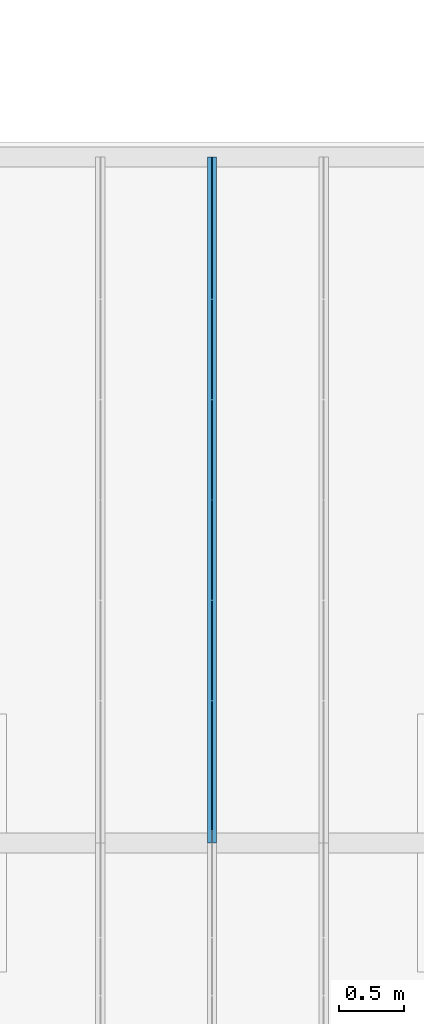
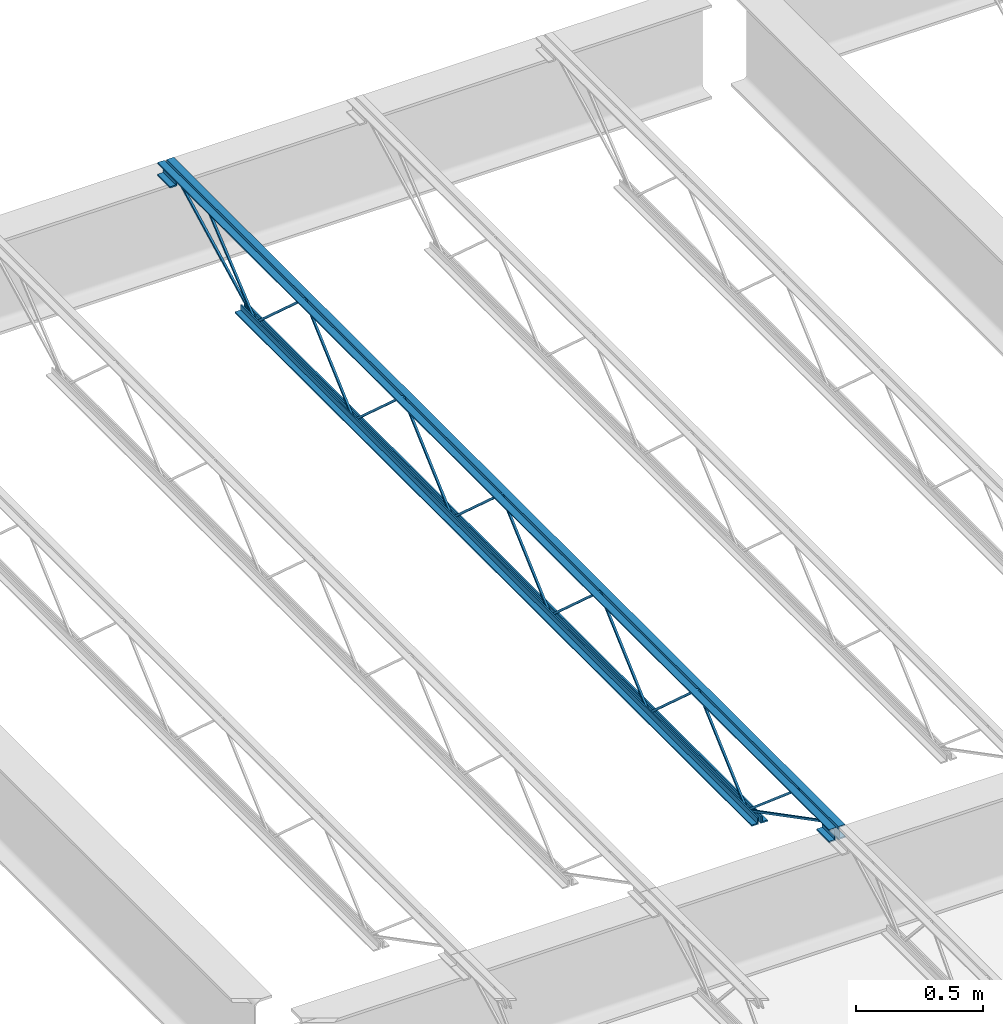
# One storey, part 62 of 75: 1 beam.
"""IFC2X3 building model written with IfcOpenShell, lengths in metres."""

import ifcopenshell
import ifcopenshell.guid

model = None  # the IFC model being written
_history = None  # IfcOwnerHistory: only IFC2X3 demands one
_inside = {}  # id of a spatial element -> (the spatial element, [elements in it])
_under = {}  # id of a project, library or spatial element -> (it, [spatial elements below it])
_declared = {}  # id of a project -> (the project, [libraries it declares])
_typed = {}  # id of a type object -> (the type object, [elements of that type])
_made_of = {}  # id of a material, layer set ... -> (it, [elements and type objects made of it])


def new_model(schema):
    """Start an empty IFC model of exactly this schema.

    Asked for "IFC4X3", IfcOpenShell would pick the latest addendum, in which some entities
    have other attributes; the version numbers below select the first issue.
    IFC2X3 requires an IfcOwnerHistory on every rooted entity: one is made here for all.
    """
    global model, _history
    if schema == "IFC4X3":
        model = ifcopenshell.file(schema_version=(4, 3, 0, 0))
    else:
        model = ifcopenshell.file(schema=schema)
    _inside.clear()
    _under.clear()
    _declared.clear()
    _typed.clear()
    _made_of.clear()
    _history = None
    if model.schema == "IFC2X3":
        org = make("IfcOrganization", Name="unknown")
        user = make(
            "IfcPersonAndOrganization",
            ThePerson=make("IfcPerson", FamilyName="unknown"),
            TheOrganization=org,
        )
        app = make(
            "IfcApplication",
            ApplicationDeveloper=org,
            Version="unknown",
            ApplicationFullName="unknown",
            ApplicationIdentifier="unknown",
        )
        _history = make(
            "IfcOwnerHistory",
            OwningUser=user,
            OwningApplication=app,
            ChangeAction="ADDED",
            CreationDate=0,
        )
    return model


def make(cls, **values):
    """One entity of the class cls with the attributes given. An attribute that is None is left unset."""
    return model.create_entity(
        cls, **{name: value for name, value in values.items() if value is not None}
    )


def entity(cls, *values):
    """Any entity or typed value of the class cls, its attributes in the order of the schema. None: left unset."""
    e = model.create_entity(cls)
    for i, value in enumerate(values):
        if value is not None:
            e[i] = value
    return e


def rooted(cls, **values):
    """An entity with a GlobalId (a new one), such as an element, a storey or a relation."""
    return make(cls, GlobalId=ifcopenshell.guid.new(), OwnerHistory=_history, **values)


def si_unit(unit_type, name, prefix=None):
    """IfcSIUnit, for example si_unit("LENGTHUNIT", "METRE", prefix="MILLI")."""
    return make("IfcSIUnit", UnitType=unit_type, Prefix=prefix, Name=name)


def converted_unit(unit_type, name, factor, base, dimensions=None, offset=None):
    """IfcConversionBasedUnit, such as the inch: factor (a typed value) times the base unit."""
    return make(
        "IfcConversionBasedUnit"
        if offset is None
        else "IfcConversionBasedUnitWithOffset",
        ConversionOffset=offset,
        Dimensions=None
        if dimensions is None
        else entity("IfcDimensionalExponents", *dimensions),
        UnitType=unit_type,
        Name=name,
        ConversionFactor=make(
            "IfcMeasureWithUnit", ValueComponent=factor, UnitComponent=base
        ),
    )


def assignment(units):
    """IfcUnitAssignment: the units of a project."""
    return None if units is None else make("IfcUnitAssignment", Units=units)


def point(xyz):
    """IfcCartesianPoint."""
    return None if xyz is None else make("IfcCartesianPoint", Coordinates=xyz)


def direction(xyz):
    """IfcDirection."""
    return None if xyz is None else make("IfcDirection", DirectionRatios=xyz)


def frame(location, z_axis=None, x_axis=None):
    """IfcAxis2Placement3D, a coordinate frame: its origin and axes. An axis left out is left unset."""
    return make(
        "IfcAxis2Placement3D",
        Location=point(location),
        Axis=direction(z_axis),
        RefDirection=direction(x_axis),
    )


def origin():
    """The frame at (0, 0, 0) with its axes left unset."""
    return frame((0.0, 0.0, 0.0))


def place(relative_to, where):
    """IfcLocalPlacement: puts the frame where relative to a parent placement (None: the world)."""
    return make(
        "IfcLocalPlacement", PlacementRelTo=relative_to, RelativePlacement=where
    )


def context(
    kind, dimensions, precision=None, world=None, true_north=None, identifier=None
):
    """IfcGeometricRepresentationContext, for example the 3D "Model" context."""
    return make(
        "IfcGeometricRepresentationContext",
        ContextIdentifier=identifier,
        ContextType=kind,
        CoordinateSpaceDimension=dimensions,
        Precision=precision,
        WorldCoordinateSystem=world,
        TrueNorth=true_north,
    )


def project(units=None, contexts=None):
    """IfcProject with its units and contexts."""
    return rooted(
        "IfcProject",
        Name="project",
        RepresentationContexts=contexts,
        UnitsInContext=assignment(units),
    )


def spatial(cls, under=None, at=None, **own):
    """A site, building, storey or space (cls), placed at a placement, below another one or the project."""
    s = rooted(cls, ObjectPlacement=at, **own)
    if under is not None:
        _under.setdefault(under.id(), (under, []))[1].append(s)
    return s


def faces_of(points, faces, orient=None, outer=None):
    """IfcFace entities. A face is a list of loops; a loop is a list of indices into points, from 0.

    orient and outer hold one flag for each loop. By default every Orientation is true, the
    first loop of a face is its IfcFaceOuterBound and the others are IfcFaceBound.
    """
    made = []
    for i, loops in enumerate(faces):
        bounds = []
        for j, loop in enumerate(loops):
            is_outer = j == 0 if outer is None else outer[i][j]
            bounds.append(
                make(
                    "IfcFaceOuterBound" if is_outer else "IfcFaceBound",
                    Bound=make("IfcPolyLoop", Polygon=[points[k] for k in loop]),
                    Orientation=True if orient is None else orient[i][j],
                )
            )
        made.append(make("IfcFace", Bounds=bounds))
    return made


def face_set(faces, orient=None, outer=None):
    """The faces of one IfcConnectedFaceSet. surface_model builds it on its shared points."""
    return ("IfcConnectedFaceSet", faces, orient, outer)


def surface_model(cls, points, shells):
    """IfcFaceBasedSurfaceModel or IfcShellBasedSurfaceModel (cls): surfaces that need not close."""
    shared = [point(p) for p in points]
    made = [make(c, CfsFaces=faces_of(shared, fs, o, b)) for c, fs, o, b in shells]
    if cls == "IfcFaceBasedSurfaceModel":
        return make(cls, FbsmFaces=made)
    return make(cls, SbsmBoundary=made)


def shape(context_of_items, identifier, shape_type, items):
    """IfcShapeRepresentation: the items that make up one representation, for example the "Body"."""
    return make(
        "IfcShapeRepresentation",
        ContextOfItems=context_of_items,
        RepresentationIdentifier=identifier,
        RepresentationType=shape_type,
        Items=items,
    )


def made_of(thing, what):
    """Note that an element or type object is made of a material, layer set ...; save() writes the relation."""
    if what is not None:
        _made_of.setdefault(what.id(), (what, []))[1].append(thing)
    return thing


def element(
    cls,
    number,
    at=None,
    inside=None,
    cuts=None,
    type_object=None,
    material=None,
    context=None,
    identifier="Body",
    shape_type=None,
    held_by="IfcProductDefinitionShape",
    body=None,
    shapes=None,
    **own,
):
    """One element of the class cls, such as IfcWall. Its Tag is "e" and its number.

    at: its placement. inside: the storey or other place that contains it. cuts: it is an
    opening in that element (IfcRelVoidsElement). A single representation is given by context,
    identifier, shape_type and body (its items); several are given by shapes. held_by: the class
    of the entity that holds the representations. save() writes the other relations.
    """
    e = rooted(cls, Tag="e%d" % number, ObjectPlacement=at, **own)
    if body is not None:
        shapes = [shape(context, identifier, shape_type, body)]
    if shapes is not None:
        e.Representation = make(held_by, Representations=shapes)
    if inside is not None:
        _inside.setdefault(inside.id(), (inside, []))[1].append(e)
    if cuts is not None:
        rooted(
            "IfcRelVoidsElement", RelatingBuildingElement=cuts, RelatedOpeningElement=e
        )
    if type_object is not None:
        _typed.setdefault(type_object.id(), (type_object, []))[1].append(e)
    return made_of(e, material)


def aggregate(whole, parts):
    """IfcRelAggregates: a whole, such as a stair, and the parts it consists of."""
    return rooted("IfcRelAggregates", RelatingObject=whole, RelatedObjects=parts)


def save(model, path):
    """Write the relations noted so far, then the file.

    IfcRelAggregates (storeys below a building ...), IfcRelContainedInSpatialStructure (elements
    in a storey), IfcRelDefinesByType, IfcRelAssociatesMaterial and IfcRelDeclares: one each for
    every whole, place, type object, material and project.
    """
    for whole, parts in _under.values():
        aggregate(whole, parts)
    for where, things in _inside.values():
        rooted(
            "IfcRelContainedInSpatialStructure",
            RelatedElements=things,
            RelatingStructure=where,
        )
    for kind, things in _typed.values():
        rooted("IfcRelDefinesByType", RelatedObjects=things, RelatingType=kind)
    for what, things in _made_of.values():
        rooted("IfcRelAssociatesMaterial", RelatedObjects=things, RelatingMaterial=what)
    for by, libraries in _declared.values():
        rooted("IfcRelDeclares", RelatingContext=by, RelatedDefinitions=libraries)
    model.write(path)


model = new_model("IFC2X3")

# Units and contexts
model_context = context("Model", 3, precision=1e-09, world=origin())
plan_context = context("Plan", 3, precision=1e-09, world=origin())
ifc_project = project(units=[si_unit("LENGTHUNIT", "METRE"), si_unit("AREAUNIT", "SQUARE_METRE"), si_unit("VOLUMEUNIT", "CUBIC_METRE"), converted_unit("PLANEANGLEUNIT", "DEGREE", entity("IfcRatioMeasure", 0.01745329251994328), si_unit("PLANEANGLEUNIT", "RADIAN"), dimensions=[0, 0, 0, 0, 0, 0, 0]), si_unit("TIMEUNIT", "SECOND")], contexts=[model_context, plan_context])

# Site, building, storey
site_placement = place(None, origin())
site = spatial("IfcSite", under=ifc_project, at=site_placement, Name="Default", CompositionType="ELEMENT")
building_placement = place(site_placement, origin())
building = spatial("IfcBuilding", under=site, at=building_placement, CompositionType="ELEMENT")
storey_placement = place(building_placement, origin())
storey = spatial("IfcBuildingStorey", under=building, at=storey_placement, Name="First Floor", CompositionType="ELEMENT", Elevation=-3.531500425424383e-13)

# Beam
beam_placement = place(storey_placement, frame((-17.50673749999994, 44.78049999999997, 4.112000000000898), z_axis=(0.0, 0.0, 1.0), x_axis=(-1.0, 0.0, 0.0)))
element("IfcBeam", 1, at=beam_placement, inside=storey, Name="M_K-Series Bar Joist-Rod Web:14K1:14K1", ObjectType="M_K-Series Bar Joist-Rod Web:14K1", context=model_context, shape_type="SurfaceModel", body=[
    surface_model("IfcFaceBasedSurfaceModel", [(-0.0320000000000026, -2.266000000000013, 0.01110000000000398), (-0.04150000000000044, -2.266000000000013, 0.01110000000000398), (-0.04150000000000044, -2.266000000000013, 0.001600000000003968), (-0.0320000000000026, -2.266000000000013, 0.001600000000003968), (-0.04150000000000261, -2.264645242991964, 0.01110000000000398), (-0.0320000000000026, -2.264645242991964, 0.01110000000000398), (-0.04150000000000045, -2.26100475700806, 0.001600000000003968), (-0.04149999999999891, -1.878854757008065, 0.3449000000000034), (-0.04149999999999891, -1.876145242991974, 0.3449000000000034), (-0.04149999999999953, -1.493995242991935, 0.001600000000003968), (-0.04149999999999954, -1.489000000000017, 0.001600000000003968), (-0.04149999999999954, -1.489000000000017, 0.01110000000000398), (-0.04149999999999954, -1.490354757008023, 0.01110000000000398), (-0.04150000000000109, -1.872504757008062, 0.3544000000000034), (-0.04150000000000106, -1.882495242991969, 0.3544000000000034), (-0.03200000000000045, -2.26100475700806, 0.001600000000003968), (-0.03200000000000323, -1.878854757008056, 0.3449000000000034), (-0.03200000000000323, -1.876145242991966, 0.3449000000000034), (-0.0320000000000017, -1.493995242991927, 0.001600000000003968), (-0.03200000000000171, -1.489000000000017, 0.001600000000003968), (-0.03200000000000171, -1.489000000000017, 0.01110000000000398), (-0.0320000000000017, -1.490354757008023, 0.01110000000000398), (-0.03200000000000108, -1.872504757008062, 0.3544000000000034), (-0.03200000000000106, -1.882495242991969, 0.3544000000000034), (-0.03200000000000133, -3.04300000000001, 0.01110000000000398), (-0.04149999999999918, -3.04300000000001, 0.01110000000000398), (-0.04149999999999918, -3.04300000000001, 0.001600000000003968), (-0.03200000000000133, -3.04300000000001, 0.001600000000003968), (-0.04150000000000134, -3.041645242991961, 0.01110000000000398), (-0.03200000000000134, -3.041645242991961, 0.01110000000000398), (-0.04149999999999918, -3.038004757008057, 0.001600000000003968), (-0.0414999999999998, -2.655854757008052, 0.3449000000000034), (-0.04149999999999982, -2.653145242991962, 0.3449000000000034), (-0.04150000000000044, -2.270995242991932, 0.001600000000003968), (-0.04149999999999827, -2.266000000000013, 0.01110000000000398), (-0.04149999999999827, -2.26735475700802, 0.01110000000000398), (-0.04149999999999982, -2.649504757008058, 0.3544000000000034), (-0.0414999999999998, -2.659495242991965, 0.3544000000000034), (-0.03199999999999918, -3.038004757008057, 0.001600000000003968), (-0.03200000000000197, -2.655854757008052, 0.3449000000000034), (-0.03200000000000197, -2.653145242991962, 0.3449000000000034), (-0.03200000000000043, -2.270995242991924, 0.001600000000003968), (-0.03200000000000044, -2.266000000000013, 0.001600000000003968), (-0.0320000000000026, -2.26735475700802, 0.01110000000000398), (-0.03200000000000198, -2.649504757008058, 0.3544000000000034), (-0.03200000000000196, -2.659495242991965, 0.3544000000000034), (-0.03200000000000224, -3.820000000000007, 0.01110000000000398), (-0.04150000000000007, -3.820000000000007, 0.01110000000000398), (-0.04150000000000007, -3.820000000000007, 0.001600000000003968), (-0.03200000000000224, -3.820000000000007, 0.001600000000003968), (-0.04150000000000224, -3.818645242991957, 0.01110000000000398), (-0.03200000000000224, -3.818645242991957, 0.01110000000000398), (-0.04150000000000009, -3.815004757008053, 0.001600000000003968), (-0.0415000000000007, -3.432854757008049, 0.3449000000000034), (-0.04150000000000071, -3.430145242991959, 0.3449000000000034), (-0.04149999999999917, -3.04799524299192, 0.001600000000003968), (-0.04149999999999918, -3.043000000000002, 0.001600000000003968), (-0.04149999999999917, -3.044354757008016, 0.01110000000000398), (-0.04150000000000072, -3.426504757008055, 0.3544000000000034), (-0.0415000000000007, -3.436495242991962, 0.3544000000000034), (-0.03200000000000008, -3.815004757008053, 0.001600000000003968), (-0.03200000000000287, -3.432854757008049, 0.3449000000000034), (-0.03200000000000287, -3.430145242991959, 0.3449000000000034), (-0.03200000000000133, -3.04799524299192, 0.001600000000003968), (-0.03200000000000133, -3.043000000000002, 0.01110000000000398), (-0.03200000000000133, -3.044354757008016, 0.01110000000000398), (-0.03200000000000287, -3.426504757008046, 0.3544000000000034), (-0.03200000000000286, -3.436495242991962, 0.3544000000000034), (-0.03200000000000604, -1.489000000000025, 0.01109999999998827), (-0.04150000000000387, -1.489000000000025, 0.01109999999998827), (-0.04150000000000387, -1.489000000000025, 0.001599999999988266), (-0.03200000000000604, -1.489000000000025, 0.001599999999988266), (-0.04150000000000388, -1.487645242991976, 0.01109999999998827), (-0.03200000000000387, -1.487645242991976, 0.01109999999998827), (-0.04150000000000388, -1.484004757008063, 0.001599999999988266), (-0.04150000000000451, -1.101854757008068, 0.3448999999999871), (-0.04150000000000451, -1.099145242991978, 0.3448999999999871), (-0.04150000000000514, -0.7169952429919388, 0.001599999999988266), (-0.04150000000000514, -0.7120000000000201, 0.001599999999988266), (-0.04150000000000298, -0.7120000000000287, 0.01109999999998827), (-0.04150000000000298, -0.7133547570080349, 0.01109999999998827), (-0.04150000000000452, -1.095504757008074, 0.3543999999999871), (-0.0415000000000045, -1.10549524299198, 0.3543999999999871), (-0.03200000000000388, -1.484004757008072, 0.001599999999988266), (-0.0320000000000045, -1.101854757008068, 0.3448999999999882), (-0.0320000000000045, -1.099145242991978, 0.3448999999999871), (-0.03200000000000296, -0.7169952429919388, 0.001599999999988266), (-0.03200000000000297, -0.7120000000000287, 0.001599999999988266), (-0.0320000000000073, -0.7120000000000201, 0.01109999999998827), (-0.03200000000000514, -0.7133547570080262, 0.01109999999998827), (-0.03200000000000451, -1.095504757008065, 0.3543999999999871), (-0.0320000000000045, -1.105495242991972, 0.3543999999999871), (-0.03200000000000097, -4.597000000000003, 0.01110000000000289), (-0.04149999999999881, -4.597000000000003, 0.01110000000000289), (-0.04149999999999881, -4.597000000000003, 0.001600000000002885), (-0.03200000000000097, -4.597000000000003, 0.001600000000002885), (-0.04150000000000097, -4.595645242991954, 0.01110000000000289), (-0.03200000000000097, -4.595645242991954, 0.01110000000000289), (-0.04149999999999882, -4.592004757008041, 0.001600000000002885), (-0.04149999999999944, -4.209854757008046, 0.3449000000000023), (-0.04149999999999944, -4.207145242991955, 0.3449000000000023), (-0.04150000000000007, -3.824995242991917, 0.001600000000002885), (-0.04150000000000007, -3.819999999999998, 0.001600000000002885), (-0.04149999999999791, -3.820000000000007, 0.01110000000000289), (-0.04149999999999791, -3.821354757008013, 0.01110000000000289), (-0.04149999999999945, -4.203504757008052, 0.3544000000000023), (-0.04149999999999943, -4.213495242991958, 0.3544000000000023), (-0.03199999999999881, -4.592004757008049, 0.001600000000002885), (-0.0320000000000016, -4.209854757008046, 0.3449000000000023), (-0.0320000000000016, -4.207145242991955, 0.3449000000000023), (-0.03200000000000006, -3.824995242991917, 0.001600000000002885), (-0.03200000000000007, -3.820000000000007, 0.001600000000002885), (-0.03200000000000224, -3.819999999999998, 0.01110000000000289), (-0.03200000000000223, -3.821354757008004, 0.01110000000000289), (-0.03200000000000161, -4.203504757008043, 0.3544000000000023), (-0.03200000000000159, -4.213495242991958, 0.3544000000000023), (-0.04150000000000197, 0.0, 0.3559999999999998), (-0.07350000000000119, 0.0, 0.3559999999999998), (-0.07350000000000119, 0.0, 0.349499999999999), (-0.04800000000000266, 0.0, 0.349499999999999), (-0.04800000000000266, 0.0, 0.3239999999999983), (-0.04150000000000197, 0.0, 0.3239999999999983), (-0.03200000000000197, 0.0, 0.3559999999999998), (-0.03200000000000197, 0.0, 0.3239999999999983), (-0.02550000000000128, 0.0, 0.3239999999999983), (-0.02550000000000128, 0.0, 0.349499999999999), (0.0, 0.0, 0.349499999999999), (0.0, 0.0, 0.3559999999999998), (-0.04150000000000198, -5.309000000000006, 0.3559999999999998), (-0.0735000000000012, -5.309000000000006, 0.3559999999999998), (-0.0735000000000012, -5.309000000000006, 0.349499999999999), (-0.04800000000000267, -5.309000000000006, 0.349499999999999), (-0.04800000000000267, -5.309000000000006, 0.3239999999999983), (-0.04150000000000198, -5.309000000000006, 0.3239999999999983), (-0.03200000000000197, -5.309000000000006, 0.3559999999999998), (-0.03200000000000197, -5.309000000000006, 0.3239999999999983), (-0.02550000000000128, -5.309000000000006, 0.3239999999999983), (-0.02550000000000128, -5.309000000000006, 0.349499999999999), (0.0, -5.309000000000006, 0.349499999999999), (0.0, -5.309000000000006, 0.3559999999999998), (-0.03200000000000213, -5.20900000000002, 0.2924999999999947), (0.0, -5.20900000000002, 0.2924999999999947), (0.0, -5.20900000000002, 0.2989999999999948), (-0.02550000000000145, -5.20900000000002, 0.2989999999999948), (-0.02550000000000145, -5.20900000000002, 0.3239999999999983), (-0.03200000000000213, -5.20900000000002, 0.3239999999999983), (-0.07350000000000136, -5.20900000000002, 0.2924999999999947), (-0.04150000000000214, -5.20900000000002, 0.2924999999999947), (-0.04150000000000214, -5.20900000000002, 0.3239999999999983), (-0.04800000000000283, -5.20900000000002, 0.3239999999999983), (-0.04800000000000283, -5.20900000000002, 0.2989999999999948), (-0.07350000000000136, -5.20900000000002, 0.2989999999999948), (-0.03200000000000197, -5.309000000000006, 0.2924999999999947), (0.0, -5.309000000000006, 0.2924999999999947), (0.0, -5.309000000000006, 0.2989999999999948), (-0.02550000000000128, -5.309000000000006, 0.2989999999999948), (-0.0735000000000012, -5.309000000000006, 0.2924999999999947), (-0.04150000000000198, -5.309000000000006, 0.2924999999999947), (-0.04800000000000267, -5.309000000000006, 0.2989999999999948), (-0.0735000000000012, -5.309000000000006, 0.2989999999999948), (-0.04150000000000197, 0.0, 0.2924999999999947), (-0.04800000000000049, 0.0, 0.3239999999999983), (-0.04800000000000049, 0.0, 0.2989999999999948), (-0.07350000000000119, 0.0, 0.2989999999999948), (-0.07350000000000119, 0.0, 0.2924999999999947), (-0.03200000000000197, 0.0, 0.2924999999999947), (0.0, 0.0, 0.2924999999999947), (0.0, 0.0, 0.2989999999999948), (-0.02550000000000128, 0.0, 0.2989999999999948), (-0.04150000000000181, -0.1000000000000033, 0.2924999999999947), (-0.04150000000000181, -0.1000000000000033, 0.3239999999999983), (-0.04800000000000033, -0.1000000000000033, 0.3239999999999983), (-0.04800000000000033, -0.1000000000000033, 0.2989999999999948), (-0.07350000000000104, -0.1000000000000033, 0.2989999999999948), (-0.07350000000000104, -0.1000000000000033, 0.2924999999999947), (-0.03200000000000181, -0.1000000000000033, 0.2924999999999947), (0.0, -0.1000000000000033, 0.2924999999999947), (0.0, -0.1000000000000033, 0.2989999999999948), (-0.02550000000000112, -0.1000000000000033, 0.2989999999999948), (-0.02550000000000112, -0.1000000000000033, 0.3239999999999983), (-0.03200000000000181, -0.1000000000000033, 0.3239999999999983), (-0.04150000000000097, -0.6119999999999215, 0.0), (-0.04150000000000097, -0.6119999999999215, 0.03199999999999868), (-0.04800000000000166, -0.6119999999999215, 0.03199999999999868), (-0.04800000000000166, -0.6119999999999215, 0.006499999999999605), (-0.07350000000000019, -0.6119999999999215, 0.006499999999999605), (-0.07350000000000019, -0.6119999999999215, 0.0), (-0.03200000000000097, -0.6119999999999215, 0.0), (0.0, -0.6119999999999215, 0.0), (0.0, -0.6119999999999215, 0.006499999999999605), (-0.02550000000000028, -0.6119999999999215, 0.006499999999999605), (-0.02550000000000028, -0.6119999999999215, 0.03199999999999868), (-0.03200000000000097, -0.6119999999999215, 0.03199999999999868), (-0.04150000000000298, -4.696999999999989, 0.0), (-0.04150000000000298, -4.696999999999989, 0.03199999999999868), (-0.04800000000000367, -4.696999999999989, 0.03199999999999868), (-0.04800000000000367, -4.696999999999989, 0.006499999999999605), (-0.0735000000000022, -4.696999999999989, 0.006499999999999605), (-0.0735000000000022, -4.696999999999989, 0.0), (-0.03200000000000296, -4.696999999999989, 0.0), (0.0, -4.696999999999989, 0.0), (0.0, -4.696999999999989, 0.006499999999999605), (-0.02550000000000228, -4.696999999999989, 0.006499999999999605), (-0.02550000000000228, -4.696999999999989, 0.03199999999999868), (-0.03200000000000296, -4.696999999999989, 0.03199999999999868), (-0.03199999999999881, -4.594811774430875, 0.01056594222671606), (-0.04149999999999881, -4.594811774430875, 0.01056594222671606), (-0.04149999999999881, -4.599188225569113, 0.002134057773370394), (-0.03200000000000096, -4.599188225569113, 0.002134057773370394), (-0.0319999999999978, -5.207840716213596, 0.3287499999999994), (-0.0319999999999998, -5.308999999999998, 0.3287499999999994), (-0.03200000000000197, -5.308999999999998, 0.3192499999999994), (-0.03200000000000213, -5.210159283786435, 0.3192499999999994), (-0.04149999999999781, -5.210159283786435, 0.3192499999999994), (-0.04149999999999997, -5.207840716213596, 0.3287499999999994), (-0.04149999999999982, -5.308999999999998, 0.3287499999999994), (-0.04149999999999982, -5.309000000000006, 0.3192499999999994), (-0.03200000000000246, -5.005457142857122, 0.341700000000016), (-0.0415000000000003, -5.005457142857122, 0.341700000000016), (-0.0415000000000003, -5.005457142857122, 0.332200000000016), (-0.03200000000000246, -5.005457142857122, 0.332200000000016), (-0.04150000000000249, -4.991034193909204, 0.341700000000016), (-0.03200000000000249, -4.991034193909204, 0.341700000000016), (-0.04150000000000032, -4.994480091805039, 0.332200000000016), (-0.0414999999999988, -4.600045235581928, 0.002704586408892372), (-0.04150000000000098, -4.593954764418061, 0.009995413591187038), (-0.03200000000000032, -4.994480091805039, 0.332200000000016), (-0.03200000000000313, -4.600045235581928, 0.002704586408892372), (-0.03199999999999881, -4.593954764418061, 0.009995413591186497), (-0.03199999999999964, -0.09781177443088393, 0.3197840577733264), (-0.03200000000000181, -0.1021882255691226, 0.3282159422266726), (-0.04150000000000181, -0.1021882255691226, 0.3282159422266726), (-0.04149999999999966, -0.09781177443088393, 0.3197840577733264), (-0.03200000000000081, -0.7098117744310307, 0.002134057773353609), (-0.03200000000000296, -0.7141882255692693, 0.01056594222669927), (-0.04150000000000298, -0.7141882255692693, 0.01056594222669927), (-0.04150000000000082, -0.7098117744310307, 0.002134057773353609), (-0.0319999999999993, -0.3059055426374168, 0.3460340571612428), (-0.03200000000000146, -0.3120658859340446, 0.3532659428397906), (-0.04150000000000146, -0.3120658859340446, 0.3532659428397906), (-0.04149999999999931, -0.3059055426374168, 0.3460340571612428), (-0.03200000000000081, -0.7089198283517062, 0.002734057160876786), (-0.03200000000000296, -0.7150801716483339, 0.009965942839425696), (-0.04150000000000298, -0.7150801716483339, 0.009965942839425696), (-0.04150000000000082, -0.7089198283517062, 0.002734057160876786)], [face_set([[[0, 1, 2, 3]], [[1, 4, 5, 0]], [[2, 6, 7, 8, 9, 10, 11, 12, 13, 14, 4, 1]], [[3, 2, 6, 15]], [[0, 3, 15, 16, 17, 18, 19, 20, 21, 22, 23, 5]], [[4, 5, 23, 14]], [[15, 16, 7, 6]], [[14, 13, 22, 23]], [[16, 7, 8, 17]], [[13, 12, 21, 22]], [[17, 8, 9, 18]], [[20, 11, 10, 19]], [[12, 11, 20, 21]], [[18, 9, 10, 19]]]), face_set([[[24, 25, 26, 27]], [[25, 28, 29, 24]], [[26, 30, 31, 32, 33, 2, 34, 35, 36, 37, 28, 25]], [[27, 26, 30, 38]], [[24, 27, 38, 39, 40, 41, 42, 0, 43, 44, 45, 29]], [[28, 29, 45, 37]], [[38, 39, 31, 30]], [[37, 36, 44, 45]], [[39, 31, 32, 40]], [[36, 35, 43, 44]], [[40, 32, 33, 41]], [[0, 34, 2, 42]], [[35, 34, 0, 43]], [[41, 33, 2, 42]]]), face_set([[[46, 47, 48, 49]], [[47, 50, 51, 46]], [[48, 52, 53, 54, 55, 56, 25, 57, 58, 59, 50, 47]], [[49, 48, 52, 60]], [[46, 49, 60, 61, 62, 63, 27, 64, 65, 66, 67, 51]], [[50, 51, 67, 59]], [[60, 61, 53, 52]], [[59, 58, 66, 67]], [[61, 53, 54, 62]], [[58, 57, 65, 66]], [[62, 54, 55, 63]], [[64, 25, 56, 27]], [[57, 25, 64, 65]], [[63, 55, 56, 27]]]), face_set([[[68, 69, 70, 71]], [[69, 72, 73, 68]], [[70, 74, 75, 76, 77, 78, 79, 80, 81, 82, 72, 69]], [[71, 70, 74, 83]], [[68, 71, 83, 84, 85, 86, 87, 88, 89, 90, 91, 73]], [[72, 73, 91, 82]], [[83, 84, 75, 74]], [[82, 81, 90, 91]], [[84, 75, 76, 85]], [[81, 80, 89, 90]], [[85, 76, 77, 86]], [[88, 79, 78, 87]], [[80, 79, 88, 89]], [[86, 77, 78, 87]]]), face_set([[[92, 93, 94, 95]], [[93, 96, 97, 92]], [[94, 98, 99, 100, 101, 102, 103, 104, 105, 106, 96, 93]], [[95, 94, 98, 107]], [[92, 95, 107, 108, 109, 110, 111, 112, 113, 114, 115, 97]], [[96, 97, 115, 106]], [[107, 108, 99, 98]], [[106, 105, 114, 115]], [[108, 99, 100, 109]], [[105, 104, 113, 114]], [[109, 100, 101, 110]], [[112, 103, 102, 111]], [[104, 103, 112, 113]], [[110, 101, 102, 111]]]), face_set([[[116, 117, 118, 119, 120, 121]], [[122, 123, 124, 125, 126, 127]], [[128, 129, 130, 131, 132, 133]], [[134, 135, 136, 137, 138, 139]], [[121, 116, 128, 133]], [[120, 121, 133, 132]], [[119, 131, 132, 120]], [[118, 119, 131, 130]], [[117, 129, 130, 118]], [[116, 128, 129, 117]], [[127, 139, 134, 122]], [[126, 127, 139, 138]], [[125, 126, 138, 137]], [[124, 125, 137, 136]], [[123, 124, 136, 135]], [[122, 134, 135, 123]]]), face_set([[[140, 141, 142, 143, 144, 145]], [[146, 147, 148, 149, 150, 151]], [[152, 153, 154, 155, 136, 135]], [[156, 157, 133, 132, 158, 159]], [[145, 135, 152, 140]], [[144, 136, 135, 145]], [[143, 144, 136, 155]], [[142, 154, 155, 143]], [[141, 142, 154, 153]], [[140, 141, 153, 152]], [[151, 159, 156, 146]], [[150, 158, 159, 151]], [[149, 132, 158, 150]], [[148, 133, 132, 149]], [[147, 148, 133, 157]], [[146, 147, 157, 156]]]), face_set([[[160, 121, 161, 162, 163, 164]], [[165, 166, 167, 168, 124, 123]], [[169, 170, 171, 172, 173, 174]], [[175, 176, 177, 178, 179, 180]], [[164, 160, 169, 174]], [[163, 173, 174, 164]], [[162, 172, 173, 163]], [[161, 171, 172, 162]], [[121, 170, 171, 161]], [[160, 121, 170, 169]], [[123, 180, 175, 165]], [[124, 179, 180, 123]], [[168, 124, 179, 178]], [[167, 177, 178, 168]], [[166, 167, 177, 176]], [[165, 166, 176, 175]]]), face_set([[[181, 182, 183, 184, 185, 186]], [[187, 188, 189, 190, 191, 192]], [[193, 194, 195, 196, 197, 198]], [[199, 200, 201, 202, 203, 204]], [[186, 181, 193, 198]], [[185, 197, 198, 186]], [[184, 196, 197, 185]], [[183, 195, 196, 184]], [[182, 194, 195, 183]], [[181, 182, 194, 193]], [[192, 204, 199, 187]], [[191, 203, 204, 192]], [[190, 191, 203, 202]], [[189, 201, 202, 190]], [[188, 189, 201, 200]], [[187, 188, 200, 199]]]), face_set([[[205, 206, 207, 208]], [[208, 205, 209, 210, 211, 212]], [[207, 208, 212, 213]], [[206, 214, 215, 216, 213, 207]], [[205, 209, 214, 206]], [[210, 215, 216, 211]], [[213, 212, 211, 216]], [[209, 210, 215, 214]]]), face_set([[[217, 218, 219, 220]], [[218, 221, 222, 217]], [[219, 223, 224, 225, 221, 218]], [[220, 219, 223, 226]], [[217, 220, 226, 227, 228, 222]], [[228, 225, 224, 227]], [[221, 225, 228, 222]], [[226, 223, 224, 227]]]), face_set([[[229, 230, 231, 232]], [[233, 234, 235, 236]], [[232, 236, 233, 229]], [[231, 235, 236, 232]], [[230, 231, 235, 234]], [[229, 230, 234, 233]]]), face_set([[[237, 238, 239, 240]], [[241, 242, 243, 244]], [[240, 244, 241, 237]], [[239, 243, 244, 240]], [[238, 239, 243, 242]], [[237, 238, 242, 241]]])]),
])

save(model, "model.ifc")
